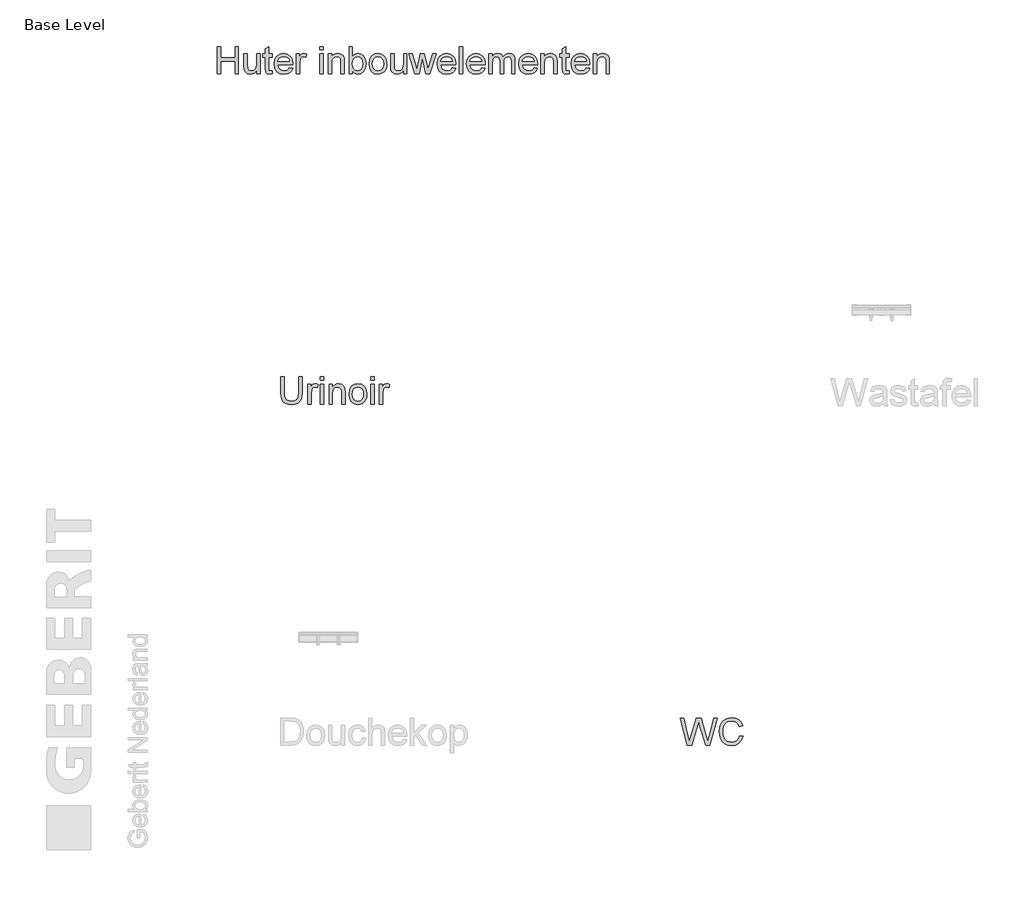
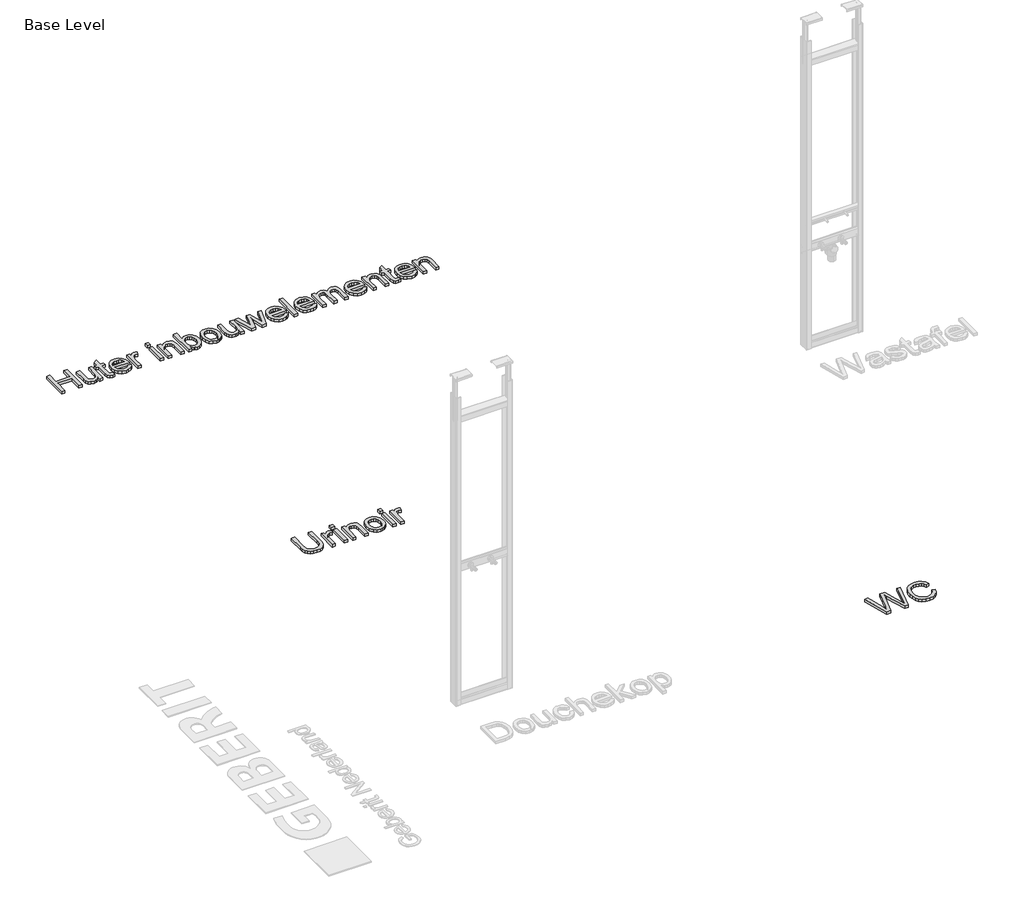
# One storey, part 2 of 3: 3 proxies.
"""IFC4 building model written with IfcOpenShell, lengths in millimetres."""

from ifc_helpers import new_model, si_unit, origin, origin_with_axes, place, context, project, spatial, polyline, outline, extrude, element, save

model = new_model("IFC4")

# Units and contexts
model_context = context("Model", 3, world=origin())
ifc_project = project(units=[si_unit("LENGTHUNIT", "METRE", prefix="MILLI")], contexts=[model_context])

# Site, building, storey
site = spatial("IfcSite", under=ifc_project)
building = spatial("IfcBuilding", under=site)
storey = spatial("IfcBuildingStorey", under=building, Name="Base Level", Elevation=0.0)

# Proxies
placement = place(None, origin())
element("IfcBuildingElementProxy", 1, Name="medium", ObjectType="medium", at=placement, inside=storey, context=model_context, shape_type="SweptSolid", body=[
    extrude(outline(polyline([(-1363.4489757, 5145.5224142), (-1338.833591, 5145.5224142), (-1338.833591, 5031.916645), (-1340.5042641, 5005.3120777), (-1345.5162834, 4984.8252988), (-1354.8792641, 4969.0200104), (-1369.6028218, 4956.4599142), (-1389.7230141, 4948.2567892), (-1415.2758987, 4945.5224142), (-1440.2698891, 4947.9022219), (-1460.2518603, 4955.041645), (-1475.2278218, 4966.6942892), (-1485.2037834, 4982.6137604), (-1490.8107545, 5003.9659238), (-1492.6797449, 5031.916645), (-1492.6797449, 5145.5224142), (-1468.0643603, 5145.5224142), (-1468.0643603, 5032.7820296), (-1466.850418, 5010.6606354), (-1463.208591, 4995.2579911), (-1456.6100334, 4984.5909238), (-1446.5258987, 4976.6762604), (-1433.3768603, 4971.7724142), (-1417.583591, 4970.1377988), (-1392.5475334, 4973.3709719), (-1375.9008987, 4983.0704911), (-1366.5619564, 5001.9647219), (-1363.4489757, 5032.7820296), (-1363.4489757, 5145.5224142)])), origin_with_axes(), (0.0, 0.0, 1.0), 20.0),
    extrude(outline(polyline([(-1298.833591, 4948.5993373), (-1298.833591, 5093.2147219), (-1277.2951295, 5093.2147219), (-1277.2951295, 5071.8204911), (-1262.006668, 5091.5320296), (-1246.6220526, 5096.291645), (-1234.3624372, 5094.3926065), (-1221.9105141, 5088.6954911), (-1230.131668, 5066.6281834), (-1247.4393603, 5071.6762604), (-1261.3576295, 5066.8204911), (-1270.2278218, 5053.3589527), (-1274.2182064, 5024.6089527), (-1274.2182064, 4948.5993373), (-1298.833591, 4948.5993373)])), origin_with_axes(), (0.0, 0.0, 1.0), 20.0),
    extrude(outline(polyline([(-1206.5258987, 5120.9070296), (-1206.5258987, 5145.5224142), (-1181.9105141, 5145.5224142), (-1181.9105141, 5120.9070296), (-1206.5258987, 5120.9070296)])), origin_with_axes(), (0.0, 0.0, 1.0), 20.0),
    extrude(outline(polyline([(-1206.5258987, 4948.5993373), (-1206.5258987, 5093.2147219), (-1181.9105141, 5093.2147219), (-1181.9105141, 4948.5993373), (-1206.5258987, 4948.5993373)])), origin_with_axes(), (0.0, 0.0, 1.0), 20.0),
    extrude(outline(polyline([(-1144.9874372, 4948.5993373), (-1144.9874372, 5093.2147219), (-1120.3720526, 5093.2147219), (-1120.3720526, 5073.0224142), (-1111.8203699, 5083.2027027), (-1101.5499372, 5090.4743373), (-1089.5607545, 5094.837318), (-1075.8528218, 5096.291645), (-1052.6076295, 5091.604145), (-1036.7422449, 5079.2964527), (-1029.3624372, 5061.1954911), (-1028.0643603, 5037.3974142), (-1028.0643603, 4948.5993373), (-1052.6797449, 4948.5993373), (-1052.6797449, 5034.0801065), (-1055.5162834, 5055.8589527), (-1065.5403218, 5067.3733757), (-1082.4393603, 5071.6762604), (-1096.8564276, 5069.260395), (-1109.146091, 5062.0127988), (-1117.5655622, 5048.010395), (-1120.3720526, 5025.3301065), (-1120.3720526, 4948.5993373), (-1144.9874372, 4948.5993373)])), origin_with_axes(), (0.0, 0.0, 1.0), 20.0),
    extrude(outline(polyline([(-1000.3720526, 5020.9070296), (-995.0475334, 5055.774818), (-988.3918843, 5069.3234959), (-979.0739757, 5080.2820296), (-959.3383987, 5092.2892411), (-935.708591, 5096.291645), (-909.849216, 5091.4178469), (-889.194168, 5076.7964527), (-875.6545045, 5053.5813084), (-871.1412834, 5022.9262604), (-873.1364757, 4998.0584719), (-879.1220526, 4979.1281834), (-888.9237353, 4964.9515007), (-902.3672449, 4954.3445296), (-918.334793, 4947.727943), (-935.708591, 4945.5224142), (-961.880466, 4950.3781834), (-982.5114757, 4964.9454911), (-995.9069084, 4988.6474142), (-1000.3720526, 5020.9070296)]), holes=[polyline([(-975.756668, 5020.9551065), (-972.9081103, 4998.6774623), (-964.3624372, 4982.806068), (-951.5018603, 4973.3048661), (-935.708591, 4970.1377988), (-919.9874372, 4973.322895), (-907.1508987, 4982.8781834), (-898.6052257, 4998.9599142), (-895.756668, 5021.7243373), (-898.6232545, 5043.352943), (-907.2230141, 5059.0079911), (-920.0775814, 5068.509193), (-935.708591, 5071.6762604), (-951.5018603, 5068.5212123), (-964.3624372, 5059.056068), (-972.9081103, 5043.2207315), (-975.756668, 5020.9551065)])]), origin_with_axes(), (0.0, 0.0, 1.0), 20.0),
    extrude(outline(polyline([(-843.4489757, 4948.5993373), (-843.4489757, 5093.2147219), (-818.833591, 5093.2147219), (-818.833591, 4948.5993373), (-843.4489757, 4948.5993373)])), origin_with_axes(), (0.0, 0.0, 1.0), 20.0),
    extrude(outline(polyline([(-843.4489757, 5120.9070296), (-843.4489757, 5145.5224142), (-818.833591, 5145.5224142), (-818.833591, 5120.9070296), (-843.4489757, 5120.9070296)])), origin_with_axes(), (0.0, 0.0, 1.0), 20.0),
    extrude(outline(polyline([(-781.9105141, 4948.5993373), (-781.9105141, 5093.2147219), (-760.3720526, 5093.2147219), (-760.3720526, 5071.8204911), (-745.083591, 5091.5320296), (-729.6989757, 5096.291645), (-717.4393603, 5094.3926065), (-704.9874372, 5088.6954911), (-713.208591, 5066.6281834), (-730.5162834, 5071.6762604), (-744.4345526, 5066.8204911), (-753.3047449, 5053.3589527), (-757.2951295, 5024.6089527), (-757.2951295, 4948.5993373), (-781.9105141, 4948.5993373)])), origin_with_axes(), (0.0, 0.0, 1.0), 20.0),
])
element("IfcBuildingElementProxy", 2, Name="medium", ObjectType="medium", at=placement, inside=storey, context=model_context, shape_type="SweptSolid", body=[
    extrude(outline(polyline([(1447.2708158, 2481.7563586), (1393.5688927, 2678.6794355), (1418.9535081, 2678.6794355), (1450.1073543, 2549.2563586), (1459.7227389, 2509.3044355), (1470.0112004, 2544.640974), (1509.0496619, 2678.6794355), (1545.6362004, 2678.6794355), (1574.001585, 2581.515974), (1595.1073543, 2509.3044355), (1604.4342773, 2548.1025124), (1635.876585, 2678.6794355), (1661.2612004, 2678.6794355), (1607.5112004, 2481.7563586), (1581.2131235, 2481.7563586), (1534.001585, 2633.6794355), (1527.4150466, 2654.8813586), (1520.0112004, 2629.3525124), (1476.9823543, 2481.7563586), (1447.2708158, 2481.7563586)])), origin_with_axes(), (0.0, 0.0, 1.0), 20.0),
    extrude(outline(polyline([(1824.3381235, 2551.7563586), (1848.9535081, 2545.4102047), (1837.595335, 2516.7263105), (1819.7708158, 2495.7707816), (1796.3573543, 2482.952272), (1768.2323543, 2478.6794355), (1739.6806716, 2481.9126086), (1717.0063927, 2491.6121278), (1699.626585, 2507.4414547), (1686.9583158, 2529.0640509), (1679.2239408, 2554.484724), (1676.6458158, 2581.7082816), (1679.5604793, 2610.422224), (1688.3044696, 2635.217897), (1702.4210562, 2655.3080413), (1721.4535081, 2669.905397), (1744.0256235, 2678.7936182), (1768.7612004, 2681.7563586), (1795.7503831, 2677.922224), (1818.064085, 2666.4198201), (1835.0051908, 2647.9582816), (1845.876585, 2623.2467432), (1821.2612004, 2617.3813586), (1812.7275466, 2635.3320797), (1801.0688927, 2647.6457816), (1786.1410081, 2654.7671759), (1767.7996619, 2657.140974), (1746.657835, 2654.5087624), (1729.2900466, 2646.6121278), (1716.11096, 2634.280397), (1707.5352389, 2618.342897), (1702.82971, 2600.3260701), (1701.2612004, 2581.7563586), (1703.1181716, 2559.015974), (1708.689085, 2539.3525124), (1718.1842773, 2523.5171759), (1731.814085, 2512.2611663), (1748.1542293, 2505.5364066), (1765.7804312, 2503.2948201), (1786.3273062, 2506.3477047), (1803.4487004, 2515.5063586), (1816.3753831, 2530.6746278), (1824.3381235, 2551.7563586)])), origin_with_axes(), (0.0, 0.0, 1.0), 20.0),
])
element("IfcBuildingElementProxy", 3, Name="medium", ObjectType="medium", at=placement, inside=storey, context=model_context, shape_type="SweptSolid", body=[
    extrude(outline(polyline([(-1953.8768116, 7337.6780425), (-1953.8768116, 7534.6011194), (-1929.261427, 7534.6011194), (-1929.261427, 7454.6011194), (-1824.6460424, 7454.6011194), (-1824.6460424, 7534.6011194), (-1800.0306578, 7534.6011194), (-1800.0306578, 7337.6780425), (-1824.6460424, 7337.6780425), (-1824.6460424, 7429.9857348), (-1929.261427, 7429.9857348), (-1929.261427, 7337.6780425), (-1953.8768116, 7337.6780425)])), origin_with_axes(), (0.0, 0.0, 1.0), 20.0),
    extrude(outline(polyline([(-1667.7229654, 7337.6780425), (-1667.7229654, 7362.5338117), (-1676.6292154, 7350.3132588), (-1687.0018116, 7341.5842925), (-1698.8407539, 7336.3469127), (-1712.1460424, 7334.6011194), (-1735.2950808, 7339.5049656), (-1751.2566193, 7351.8126579), (-1758.5883501, 7369.9376579), (-1760.0306578, 7392.8222732), (-1760.0306578, 7482.2934271), (-1735.4152731, 7482.2934271), (-1735.4152731, 7404.4088117), (-1733.9248885, 7379.3126579), (-1730.3371481, 7370.9412636), (-1724.1893116, 7364.5770809), (-1705.8479654, 7359.216504), (-1685.2950808, 7364.6972732), (-1677.1039751, 7371.169629), (-1671.7133501, 7379.6251579), (-1667.7229654, 7407.0530425), (-1667.7229654, 7482.2934271), (-1643.1075808, 7482.2934271), (-1643.1075808, 7337.6780425), (-1667.7229654, 7337.6780425)])), origin_with_axes(), (0.0, 0.0, 1.0), 20.0),
    extrude(outline(polyline([(-1556.9537347, 7358.2068886), (-1553.8768116, 7336.9568886), (-1572.2902731, 7334.6011194), (-1592.9152731, 7338.6876579), (-1603.2037347, 7349.4088117), (-1606.1845039, 7377.341504), (-1606.1845039, 7457.6780425), (-1624.6460424, 7457.6780425), (-1624.6460424, 7482.2934271), (-1606.1845039, 7482.2934271), (-1606.1845039, 7517.4376579), (-1581.5691193, 7531.9088117), (-1581.5691193, 7482.2934271), (-1556.9537347, 7482.2934271), (-1556.9537347, 7457.6780425), (-1581.5691193, 7457.6780425), (-1581.5691193, 7378.0626579), (-1580.2710424, 7365.3703502), (-1576.0643116, 7360.8751579), (-1567.6748885, 7359.216504), (-1556.9537347, 7358.2068886)])), origin_with_axes(), (0.0, 0.0, 1.0), 20.0),
    extrude(outline(polyline([(-1431.0883501, 7380.7549656), (-1406.9537347, 7377.6780425), (-1415.6496481, 7359.4929463), (-1429.5258501, 7345.8991963), (-1448.2698404, 7337.4256386), (-1471.5691193, 7334.6011194), (-1500.4513308, 7339.4749175), (-1522.6748885, 7354.0963117), (-1536.8455616, 7377.5157829), (-1541.5691193, 7408.7838117), (-1536.7974847, 7441.1035232), (-1522.4825808, 7465.2741963), (-1500.5595039, 7480.3463117), (-1472.9633501, 7485.3703502), (-1446.2265712, 7480.3583309), (-1424.8623885, 7465.3222732), (-1410.8539751, 7441.1996771), (-1406.1845039, 7408.9280425), (-1406.3287347, 7402.2934271), (-1516.9537347, 7402.2934271), (-1512.6929174, 7383.8679463), (-1502.7950808, 7370.3222732), (-1488.5102251, 7361.9929463), (-1471.0883501, 7359.216504), (-1446.9537347, 7364.3607348), (-1437.9873885, 7371.0314079), (-1431.0883501, 7380.7549656)]), holes=[polyline([(-1516.9537347, 7426.9088117), (-1430.7998885, 7426.9088117), (-1434.1292154, 7439.9136194), (-1440.6556578, 7449.216504), (-1455.0066193, 7457.8703502), (-1473.0595039, 7460.7549656), (-1489.652052, 7458.4532829), (-1503.3720039, 7451.5482348), (-1512.9092635, 7440.7850136), (-1516.9537347, 7426.9088117)])]), origin_with_axes(), (0.0, 0.0, 1.0), 20.0),
    extrude(outline(polyline([(-1381.5691193, 7337.6780425), (-1381.5691193, 7482.2934271), (-1360.0306578, 7482.2934271), (-1360.0306578, 7460.8991963), (-1344.7421962, 7480.6107348), (-1329.3575808, 7485.3703502), (-1317.0979654, 7483.4713117), (-1304.6460424, 7477.7741963), (-1312.8671962, 7455.7068886), (-1330.1748885, 7460.7549656), (-1344.0931578, 7455.8991963), (-1352.9633501, 7442.4376579), (-1356.9537347, 7413.6876579), (-1356.9537347, 7337.6780425), (-1381.5691193, 7337.6780425)])), origin_with_axes(), (0.0, 0.0, 1.0), 20.0),
    extrude(outline(polyline([(-1212.3383501, 7337.6780425), (-1212.3383501, 7482.2934271), (-1187.7229654, 7482.2934271), (-1187.7229654, 7337.6780425), (-1212.3383501, 7337.6780425)])), origin_with_axes(), (0.0, 0.0, 1.0), 20.0),
    extrude(outline(polyline([(-1212.3383501, 7509.9857348), (-1212.3383501, 7534.6011194), (-1187.7229654, 7534.6011194), (-1187.7229654, 7509.9857348), (-1212.3383501, 7509.9857348)])), origin_with_axes(), (0.0, 0.0, 1.0), 20.0),
    extrude(outline(polyline([(-1150.7998885, 7337.6780425), (-1150.7998885, 7482.2934271), (-1126.1845039, 7482.2934271), (-1126.1845039, 7462.1011194), (-1117.6328212, 7472.2814079), (-1107.3623885, 7479.5530425), (-1095.3732058, 7483.9160232), (-1081.6652731, 7485.3703502), (-1058.4200808, 7480.6828502), (-1042.5546962, 7468.3751579), (-1035.1748885, 7450.2741963), (-1033.8768116, 7426.4761194), (-1033.8768116, 7337.6780425), (-1058.4921962, 7337.6780425), (-1058.4921962, 7423.1588117), (-1061.3287347, 7444.9376579), (-1071.3527731, 7456.4520809), (-1088.2518116, 7460.7549656), (-1102.6688789, 7458.3391002), (-1114.9585424, 7451.091504), (-1123.3780135, 7437.0891002), (-1126.1845039, 7414.4088117), (-1126.1845039, 7337.6780425), (-1150.7998885, 7337.6780425)])), origin_with_axes(), (0.0, 0.0, 1.0), 20.0),
    extrude(outline(polyline([(-975.4152731, 7337.6780425), (-1000.0306578, 7337.6780425), (-1000.0306578, 7534.6011194), (-975.4152731, 7534.6011194), (-975.4152731, 7461.5722732), (-958.1796962, 7479.4208309), (-936.761427, 7485.3703502), (-912.0979654, 7480.0097732), (-892.9633501, 7464.9376579), (-881.2085424, 7441.5001579), (-876.9537347, 7412.1491963), (-881.3587828, 7379.2886194), (-894.573927, 7354.841504), (-913.9669558, 7339.6612156), (-936.9056578, 7334.6011194), (-948.5072203, 7336.23273), (-958.792677, 7341.1275617), (-975.4152731, 7360.7068886), (-975.4152731, 7337.6780425)]), holes=[polyline([(-975.4152731, 7410.9953502), (-973.7325808, 7390.466504), (-968.6845039, 7376.5722732), (-955.7878693, 7363.5554463), (-939.0210424, 7359.216504), (-924.8143116, 7362.4136194), (-912.6748885, 7372.0049656), (-904.3455616, 7387.9304463), (-901.5691193, 7410.1299656), (-904.2313789, 7432.654004), (-912.2181578, 7448.3991963), (-923.9789751, 7457.6660232), (-937.9633501, 7460.7549656), (-952.1700808, 7457.5578502), (-964.3095039, 7447.966504), (-972.6388308, 7432.3294848), (-975.4152731, 7410.9953502)])]), origin_with_axes(), (0.0, 0.0, 1.0), 20.0),
    extrude(outline(polyline([(-855.4152731, 7409.9857348), (-850.0907539, 7444.8535232), (-843.4351049, 7458.4022011), (-834.1171962, 7469.3607348), (-814.3816193, 7481.3679463), (-790.7518116, 7485.3703502), (-764.8924366, 7480.4965521), (-744.2373885, 7465.8751579), (-730.6977251, 7442.6600136), (-726.1845039, 7412.0049656), (-728.1796962, 7387.1371771), (-734.1652731, 7368.2068886), (-743.9669558, 7354.0302059), (-757.4104654, 7343.4232348), (-773.3780135, 7336.8066482), (-790.7518116, 7334.6011194), (-816.9236866, 7339.4568886), (-837.5546962, 7354.0241963), (-850.9501289, 7377.7261194), (-855.4152731, 7409.9857348)]), holes=[polyline([(-830.7998885, 7410.0338117), (-827.9513308, 7387.7561675), (-819.4056578, 7371.8847732), (-806.5450808, 7362.3835713), (-790.7518116, 7359.216504), (-775.0306578, 7362.4016002), (-762.1941193, 7371.9568886), (-753.6484462, 7388.0386194), (-750.7998885, 7410.8030425), (-753.6664751, 7432.4316482), (-762.2662347, 7448.0866963), (-775.120802, 7457.5878982), (-790.7518116, 7460.7549656), (-806.5450808, 7457.5999175), (-819.4056578, 7448.1347732), (-827.9513308, 7432.2994367), (-830.7998885, 7410.0338117)])]), origin_with_axes(), (0.0, 0.0, 1.0), 20.0),
    extrude(outline(polyline([(-606.1845039, 7337.6780425), (-606.1845039, 7362.5338117), (-615.0907539, 7350.3132588), (-625.4633501, 7341.5842925), (-637.3022924, 7336.3469127), (-650.6075808, 7334.6011194), (-673.7566193, 7339.5049656), (-689.7181578, 7351.8126579), (-697.0498885, 7369.9376579), (-698.4921962, 7392.8222732), (-698.4921962, 7482.2934271), (-673.8768116, 7482.2934271), (-673.8768116, 7404.4088117), (-672.386427, 7379.3126579), (-668.7986866, 7370.9412636), (-662.6508501, 7364.5770809), (-644.3095039, 7359.216504), (-623.7566193, 7364.6972732), (-615.5655135, 7371.169629), (-610.1748885, 7379.6251579), (-606.1845039, 7407.0530425), (-606.1845039, 7482.2934271), (-581.5691193, 7482.2934271), (-581.5691193, 7337.6780425), (-606.1845039, 7337.6780425)])), origin_with_axes(), (0.0, 0.0, 1.0), 20.0),
    extrude(outline(polyline([(-523.7325808, 7337.6780425), (-567.7229654, 7482.2934271), (-542.1460424, 7482.2934271), (-517.1941193, 7397.9184271), (-509.7421962, 7367.7741963), (-503.636427, 7396.8126579), (-483.7806578, 7482.2934271), (-454.4537347, 7482.2934271), (-434.6941193, 7397.0530425), (-429.261427, 7370.7549656), (-421.4729654, 7398.4953502), (-396.4729654, 7482.2934271), (-370.7998885, 7482.2934271), (-415.1268116, 7337.6780425), (-444.886427, 7337.6780425), (-463.7806578, 7422.4857348), (-469.261427, 7448.9280425), (-493.636427, 7337.6780425), (-523.7325808, 7337.6780425)])), origin_with_axes(), (0.0, 0.0, 1.0), 20.0),
    extrude(outline(polyline([(-252.6268116, 7380.7549656), (-228.4921962, 7377.6780425), (-237.1881097, 7359.4929463), (-251.0643116, 7345.8991963), (-269.808302, 7337.4256386), (-293.1075808, 7334.6011194), (-321.9897924, 7339.4749175), (-344.2133501, 7354.0963117), (-358.3840231, 7377.5157829), (-363.1075808, 7408.7838117), (-358.3359462, 7441.1035232), (-344.0210424, 7465.2741963), (-322.0979654, 7480.3463117), (-294.5018116, 7485.3703502), (-267.7650328, 7480.3583309), (-246.4008501, 7465.3222732), (-232.3924366, 7441.1996771), (-227.7229654, 7408.9280425), (-227.8671962, 7402.2934271), (-338.4921962, 7402.2934271), (-334.2313789, 7383.8679463), (-324.3335424, 7370.3222732), (-310.0486866, 7361.9929463), (-292.6268116, 7359.216504), (-268.4921962, 7364.3607348), (-259.5258501, 7371.0314079), (-252.6268116, 7380.7549656)]), holes=[polyline([(-338.4921962, 7426.9088117), (-252.3383501, 7426.9088117), (-255.667677, 7439.9136194), (-262.1941193, 7449.216504), (-276.5450808, 7457.8703502), (-294.5979654, 7460.7549656), (-311.1905135, 7458.4532829), (-324.9104654, 7451.5482348), (-334.4477251, 7440.7850136), (-338.4921962, 7426.9088117)])]), origin_with_axes(), (0.0, 0.0, 1.0), 20.0),
    extrude(outline(polyline([(-203.1075808, 7337.6780425), (-203.1075808, 7534.6011194), (-178.4921962, 7534.6011194), (-178.4921962, 7337.6780425), (-203.1075808, 7337.6780425)])), origin_with_axes(), (0.0, 0.0, 1.0), 20.0),
    extrude(outline(polyline([(-40.3191193, 7380.7549656), (-16.1845039, 7377.6780425), (-24.8804174, 7359.4929463), (-38.7566193, 7345.8991963), (-57.5006097, 7337.4256386), (-80.7998885, 7334.6011194), (-109.6821001, 7339.4749175), (-131.9056578, 7354.0963117), (-146.0763308, 7377.5157829), (-150.7998885, 7408.7838117), (-146.0282539, 7441.1035232), (-131.7133501, 7465.2741963), (-109.7902731, 7480.3463117), (-82.1941193, 7485.3703502), (-55.4573404, 7480.3583309), (-34.0931578, 7465.3222732), (-20.0847443, 7441.1996771), (-15.4152731, 7408.9280425), (-15.5595039, 7402.2934271), (-126.1845039, 7402.2934271), (-121.9236866, 7383.8679463), (-112.0258501, 7370.3222732), (-97.7409943, 7361.9929463), (-80.3191193, 7359.216504), (-56.1845039, 7364.3607348), (-47.2181578, 7371.0314079), (-40.3191193, 7380.7549656)]), holes=[polyline([(-126.1845039, 7426.9088117), (-40.0306578, 7426.9088117), (-43.3599847, 7439.9136194), (-49.886427, 7449.216504), (-64.2373885, 7457.8703502), (-82.2902731, 7460.7549656), (-98.8828212, 7458.4532829), (-112.6027731, 7451.5482348), (-122.1400328, 7440.7850136), (-126.1845039, 7426.9088117)])]), origin_with_axes(), (0.0, 0.0, 1.0), 20.0),
    extrude(outline(polyline([(9.2001115, 7337.6780425), (9.2001115, 7482.2934271), (33.8154961, 7482.2934271), (33.8154961, 7458.4953502), (50.738573, 7477.9905425), (62.0486692, 7483.5253982), (74.8251115, 7485.3703502), (88.5150153, 7483.4893406), (99.488573, 7477.8463117), (107.6856884, 7468.8138598), (113.0462653, 7456.7645809), (122.0186211, 7469.279605), (132.2529961, 7478.2189079), (143.7493903, 7483.5824896), (156.5078038, 7485.3703502), (175.0114096, 7482.3955906), (188.6953038, 7473.4713117), (197.1508326, 7458.357129), (199.9693422, 7436.8126579), (199.9693422, 7337.6780425), (175.3539576, 7337.6780425), (175.3539576, 7426.2357348), (173.0703038, 7446.7886194), (164.801073, 7456.9088117), (150.738573, 7460.7549656), (137.4032365, 7458.2910232), (126.5318422, 7450.8991963), (119.3022749, 7438.0746771), (116.8924192, 7419.3126579), (116.8924192, 7337.6780425), (92.2770346, 7337.6780425), (92.2770346, 7428.9761194), (90.8527557, 7442.8943886), (86.5799192, 7452.8222732), (79.0618903, 7458.7717925), (67.9020346, 7460.7549656), (49.6808807, 7455.466504), (42.4693422, 7448.9520809), (37.5654961, 7439.9857348), (33.8154961, 7410.6107348), (33.8154961, 7337.6780425), (9.2001115, 7337.6780425)])), origin_with_axes(), (0.0, 0.0, 1.0), 20.0),
    extrude(outline(polyline([(338.1424192, 7380.7549656), (362.2770346, 7377.6780425), (353.5811211, 7359.4929463), (339.7049192, 7345.8991963), (320.9609288, 7337.4256386), (297.6616499, 7334.6011194), (268.7794384, 7339.4749175), (246.5558807, 7354.0963117), (232.3852076, 7377.5157829), (227.6616499, 7408.7838117), (232.4332846, 7441.1035232), (246.7481884, 7465.2741963), (268.6712653, 7480.3463117), (296.2674192, 7485.3703502), (323.004198, 7480.3583309), (344.3683807, 7465.3222732), (358.3767942, 7441.1996771), (363.0462653, 7408.9280425), (362.9020346, 7402.2934271), (252.2770346, 7402.2934271), (256.5378519, 7383.8679463), (266.4356884, 7370.3222732), (280.7205442, 7361.9929463), (298.1424192, 7359.216504), (322.2770346, 7364.3607348), (331.2433807, 7371.0314079), (338.1424192, 7380.7549656)]), holes=[polyline([(252.2770346, 7426.9088117), (338.4308807, 7426.9088117), (335.1015538, 7439.9136194), (328.5751115, 7449.216504), (314.2241499, 7457.8703502), (296.1712653, 7460.7549656), (279.5787172, 7458.4532829), (265.8587653, 7451.5482348), (256.3215057, 7440.7850136), (252.2770346, 7426.9088117)])]), origin_with_axes(), (0.0, 0.0, 1.0), 20.0),
    extrude(outline(polyline([(387.6616499, 7337.6780425), (387.6616499, 7482.2934271), (412.2770346, 7482.2934271), (412.2770346, 7462.1011194), (420.8287172, 7472.2814079), (431.0991499, 7479.5530425), (443.0883326, 7483.9160232), (456.7962653, 7485.3703502), (480.0414576, 7480.6828502), (495.9068422, 7468.3751579), (503.2866499, 7450.2741963), (504.5847269, 7426.4761194), (504.5847269, 7337.6780425), (479.9693422, 7337.6780425), (479.9693422, 7423.1588117), (477.1328038, 7444.9376579), (467.1087653, 7456.4520809), (450.2097269, 7460.7549656), (435.7926596, 7458.3391002), (423.5029961, 7451.091504), (415.0835249, 7437.0891002), (412.2770346, 7414.4088117), (412.2770346, 7337.6780425), (387.6616499, 7337.6780425)])), origin_with_axes(), (0.0, 0.0, 1.0), 20.0),
    extrude(outline(polyline([(590.738573, 7358.2068886), (593.8154961, 7336.9568886), (575.4020346, 7334.6011194), (554.7770346, 7338.6876579), (544.488573, 7349.4088117), (541.5078038, 7377.341504), (541.5078038, 7457.6780425), (523.0462653, 7457.6780425), (523.0462653, 7482.2934271), (541.5078038, 7482.2934271), (541.5078038, 7517.4376579), (566.1231884, 7531.9088117), (566.1231884, 7482.2934271), (590.738573, 7482.2934271), (590.738573, 7457.6780425), (566.1231884, 7457.6780425), (566.1231884, 7378.0626579), (567.4212653, 7365.3703502), (571.6279961, 7360.8751579), (580.0174192, 7359.216504), (590.738573, 7358.2068886)])), origin_with_axes(), (0.0, 0.0, 1.0), 20.0),
    extrude(outline(polyline([(716.6039576, 7380.7549656), (740.738573, 7377.6780425), (732.0426596, 7359.4929463), (718.1664576, 7345.8991963), (699.4224672, 7337.4256386), (676.1231884, 7334.6011194), (647.2409769, 7339.4749175), (625.0174192, 7354.0963117), (610.8467461, 7377.5157829), (606.1231884, 7408.7838117), (610.894823, 7441.1035232), (625.2097269, 7465.2741963), (647.1328038, 7480.3463117), (674.7289576, 7485.3703502), (701.4657365, 7480.3583309), (722.8299192, 7465.3222732), (736.8383326, 7441.1996771), (741.5078038, 7408.9280425), (741.363573, 7402.2934271), (630.738573, 7402.2934271), (634.9993903, 7383.8679463), (644.8972269, 7370.3222732), (659.1820826, 7361.9929463), (676.6039576, 7359.216504), (700.738573, 7364.3607348), (709.7049192, 7371.0314079), (716.6039576, 7380.7549656)]), holes=[polyline([(630.738573, 7426.9088117), (716.8924192, 7426.9088117), (713.5630922, 7439.9136194), (707.0366499, 7449.216504), (692.6856884, 7457.8703502), (674.6328038, 7460.7549656), (658.0402557, 7458.4532829), (644.3203038, 7451.5482348), (634.7830442, 7440.7850136), (630.738573, 7426.9088117)])]), origin_with_axes(), (0.0, 0.0, 1.0), 20.0),
    extrude(outline(polyline([(766.1231884, 7337.6780425), (766.1231884, 7482.2934271), (790.738573, 7482.2934271), (790.738573, 7462.1011194), (799.2902557, 7472.2814079), (809.5606884, 7479.5530425), (821.5498711, 7483.9160232), (835.2578038, 7485.3703502), (858.5029961, 7480.6828502), (874.3683807, 7468.3751579), (881.7481884, 7450.2741963), (883.0462653, 7426.4761194), (883.0462653, 7337.6780425), (858.4308807, 7337.6780425), (858.4308807, 7423.1588117), (855.5943422, 7444.9376579), (845.5703038, 7456.4520809), (828.6712653, 7460.7549656), (814.254198, 7458.3391002), (801.9645346, 7451.091504), (793.5450634, 7437.0891002), (790.738573, 7414.4088117), (790.738573, 7337.6780425), (766.1231884, 7337.6780425)])), origin_with_axes(), (0.0, 0.0, 1.0), 20.0),
])

save(model, "model.ifc")
